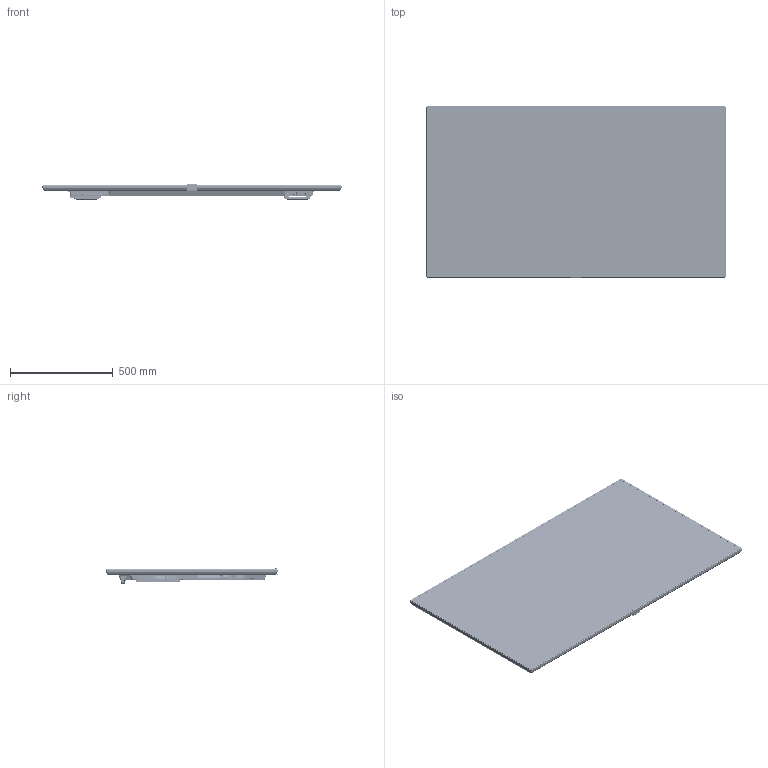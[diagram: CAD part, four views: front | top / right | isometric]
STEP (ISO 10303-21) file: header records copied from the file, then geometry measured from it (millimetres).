
FILE_DESCRIPTION((''),'2;1');
FILE_NAME('65592_ASM_ASM','2020-11-11T',('saimb'),(''),'CREO PARAMETRIC BY PTC INC, 2018360','CREO PARAMETRIC BY PTC INC, 2018360','');
FILE_SCHEMA(('AUTOMOTIVE_DESIGN { 1 0 10303 214 1 1 1 1 }'));
Products named in the file (38): BC_BLU_65405_LED_BMS_UNB; LG65UHD_RGB_V19_180921_3; LG65UHD_RGB_V19_180921_1_ASM; LG65UHD_RGB_V19_180921_ASM; ASM_CELL_65_BMS_ASM; FC_METAL_65405_LED_BMS_UNB; ASM_PANEL_65405_LED_BMS_UNB_ASM; ASM_BASIC_65405_LED_BMS_UNB_ASM; BC_65592_DS_MB_TYPE2; PLATE_MTL_PW30_OPS_65592; PLATE_MTL_65592_MBTYPE2; PLT_MTL_AC_65592; PCB_17TK50260; SWITCH_JOYSTIC; BUTTON_JOYSTICK_32260; CABLE_MB35; BUTTON_JOYSTICK_32261; ASM_JOYSTICK_50260_NB_ASM; SUPPORT_HANDLE_DS_M6; IPTAL_75990_84990_HANDLE_; SCREW_C_ZNSY_RYSB_M3_5X6_D8; SCREW_C_ZNSY_YSB_M6X15; SCREW-M-YHDB_6X20; ASM_HANDLE_GROUP_ASM; BRACKET_MTL_OPS_65592; MTL_BRACKET_AC_XX490_DS; MTL_BRACKET_AC_XX495_DS; SCHAFFNER_30001870; SCREW_M3X5_THIN_HEAD; SCREW_FLAT_HEAD_M3_5X4; ISO_PLATE_66X40_AC_55495; ASM_AC_OUT_XX490_DS_ASM; SUPPORT_HANGER_H29_5_M6_65592; COVER_INTERNAL_USB_W_HOLE; PLATE_MTL_OPS_COVER_49592; ROCKER_SWITCH_FORMB_35; LOGO_PLATE_65592_1_5_MM; 65592_ASM_ASM
Assembly tree (46 placements, depth 7):
  65592_ASM_ASM
    ASM_BASIC_65405_LED_BMS_UNB_ASM
      ASM_PANEL_65405_LED_BMS_UNB_ASM
        BC_BLU_65405_LED_BMS_UNB
        ASM_CELL_65_BMS_ASM
          LG65UHD_RGB_V19_180921_ASM
            LG65UHD_RGB_V19_180921_1_ASM
              LG65UHD_RGB_V19_180921_3
        FC_METAL_65405_LED_BMS_UNB
    BC_65592_DS_MB_TYPE2
    PLATE_MTL_PW30_OPS_65592
    PLATE_MTL_65592_MBTYPE2
    PLT_MTL_AC_65592
    ASM_JOYSTICK_50260_NB_ASM
      PCB_17TK50260
      SWITCH_JOYSTIC
      BUTTON_JOYSTICK_32260
      CABLE_MB35
      BUTTON_JOYSTICK_32261
    ASM_HANDLE_GROUP_ASM  x2
      SUPPORT_HANDLE_DS_M6
      IPTAL_75990_84990_HANDLE_
      SCREW_C_ZNSY_RYSB_M3_5X6_D8
      SCREW_C_ZNSY_YSB_M6X15
      SCREW-M-YHDB_6X20
    BRACKET_MTL_OPS_65592
    ASM_AC_OUT_XX490_DS_ASM
      MTL_BRACKET_AC_XX490_DS
      MTL_BRACKET_AC_XX495_DS
      SCHAFFNER_30001870
      SCREW_M3X5_THIN_HEAD  x2
      SCREW_FLAT_HEAD_M3_5X4  x2
      ISO_PLATE_66X40_AC_55495
    SUPPORT_HANGER_H29_5_M6_65592  x4
    COVER_INTERNAL_USB_W_HOLE
    PLATE_MTL_OPS_COVER_49592
    ROCKER_SWITCH_FORMB_35
    LOGO_PLATE_65592_1_5_MM
Bounding box: 1454.75 x 834.79 x 73.7 mm (x, y, z)
Volume: 1682476.7 mm3; surface area: 9016187.5 mm2
Topology: 144 solids, 145 shells, 37810 faces, 103696 edges, 64344 vertices
Faces by surface type: plane 21075, cylinder 9438, torus 4114, bspline 1931, cone 973, sphere 163, extrusion 116
Entity records: 1448104 total; most frequent: CARTESIAN_POINT 392561, ORIENTED_EDGE 200342, DIRECTION 189972, EDGE_CURVE 100171, VECTOR 68538, LINE 68422, VERTEX_POINT 62169, AXIS2_PLACEMENT_3D 60717
